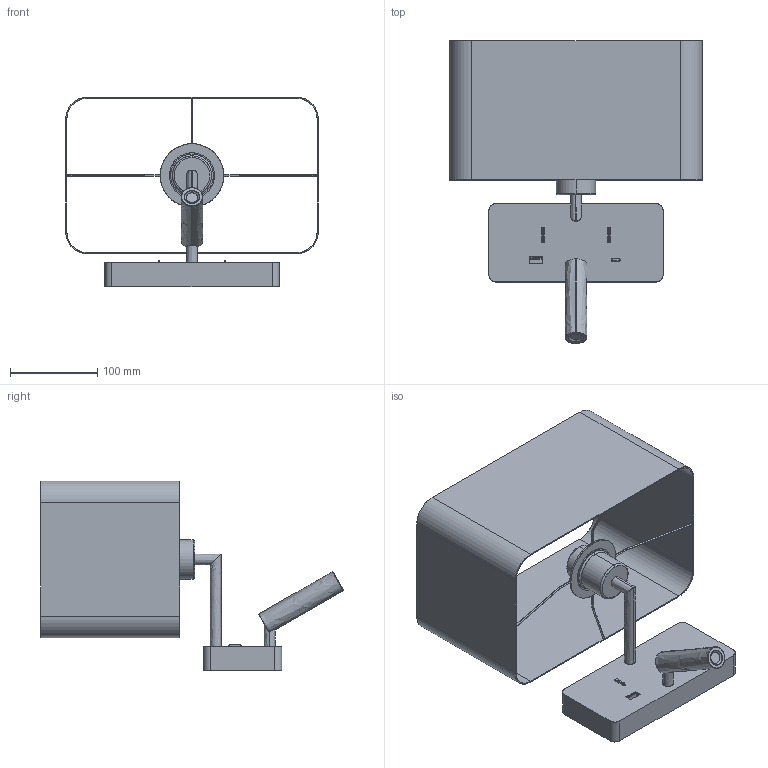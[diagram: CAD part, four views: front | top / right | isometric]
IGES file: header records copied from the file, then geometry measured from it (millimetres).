
Start section: SolidWorks IGES file using analytic representation for surfaces
Global section: file name: \\srvficheros\grupos\DISENYO\DESARROLLO DE PRODUCTO\ROMEO-3971\ROMEO-A39710.IGS; native system: SolidWorks 2025; preprocessor: SolidWorks 2025; author: d.pons; date: 260206.090506; units: millimetre
Bounding box: 290 x 347.68 x 218 mm (x, y, z)
Surface area: 427839 mm2 (no closed solid volume)
Topology: 0 solids, 0 shells, 194 faces, 3046 edges, 3046 vertices
Faces by surface type: bspline 112, revolution 82
